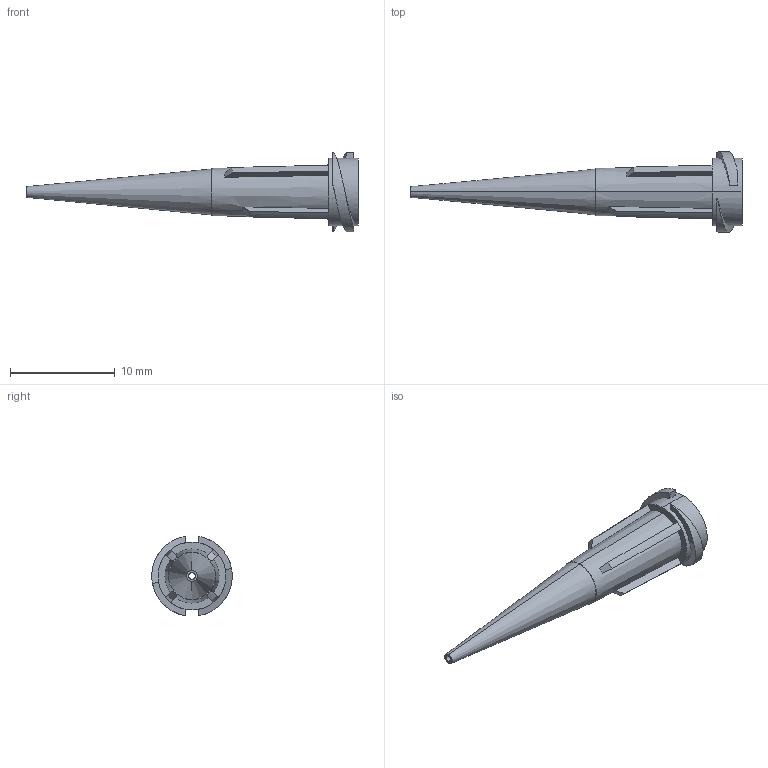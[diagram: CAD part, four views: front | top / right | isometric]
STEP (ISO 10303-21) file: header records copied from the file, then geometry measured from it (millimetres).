
FILE_DESCRIPTION (( 'STEP AP214' ), '1' );
FILE_NAME ('8001283_CUS.STEP', '2022-05-31T13:38:40', ( '' ), ( '' ), 'SwSTEP 2.0', 'SolidWorks 2020', '' );
FILE_SCHEMA (( 'AUTOMOTIVE_DESIGN' ));
Length unit declared in the file: millimetre
Products named in the file (1): 8001283_CUS
Bounding box: 31.75 x 7.69 x 7.59 mm (x, y, z)
Volume: 229.2 mm3; surface area: 780.9 mm2
Topology: 3 solids, 3 shells, 55 faces, 126 edges, 82 vertices
Faces by surface type: plane 25, cone 20, bspline 6, cylinder 4
Entity records: 1824 total; most frequent: CARTESIAN_POINT 554, DIRECTION 254, ORIENTED_EDGE 252, EDGE_CURVE 126, AXIS2_PLACEMENT_3D 100, VERTEX_POINT 82, EDGE_LOOP 62, FACE_OUTER_BOUND 55
